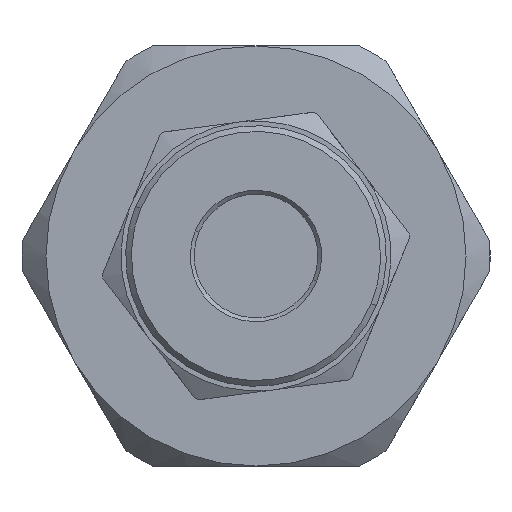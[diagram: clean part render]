
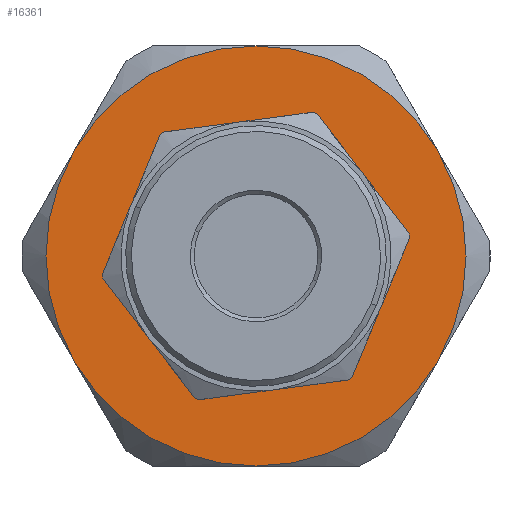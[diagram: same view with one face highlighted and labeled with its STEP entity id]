
A CAD part, left-side view. The second image highlights one B-rep face of the part: STEP entity #16361.
In plain terms, the highlighted planar face has unit normal (-1, 0, 0).
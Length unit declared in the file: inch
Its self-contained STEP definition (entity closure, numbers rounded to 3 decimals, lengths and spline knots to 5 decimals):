
#677 = ORIENTED_EDGE ( 'NONE', *, *, #7560, .T. ) ;
#739 = EDGE_CURVE ( 'NONE', #14292, #10213, #11674, .T. ) ;
#772 = DIRECTION ( 'NONE',  ( 0., 0., 1. ) ) ;
#818 = ORIENTED_EDGE ( 'NONE', *, *, #11634, .T. ) ;
#1408 = DIRECTION ( 'NONE',  ( 0., 0., 1. ) ) ;
#2139 = DIRECTION ( 'NONE',  ( 1., 0., 0. ) ) ;
#2542 = VERTEX_POINT ( 'NONE', #6569 ) ;
#2576 = DIRECTION ( 'NONE',  ( -1., 0., 0. ) ) ;
#2607 = FACE_BOUND ( 'NONE', #16266, .T. ) ;
#2678 = AXIS2_PLACEMENT_3D ( 'NONE', #7974, #5301, #3967 ) ;
#2690 = PLANE ( 'NONE',  #14534 ) ;
#2766 = ORIENTED_EDGE ( 'NONE', *, *, #6705, .T. ) ;
#3119 = DIRECTION ( 'NONE',  ( -1., 0., 0. ) ) ;
#3595 = VERTEX_POINT ( 'NONE', #12402 ) ;
#3967 = DIRECTION ( 'NONE',  ( 0., 0., 1. ) ) ;
#4171 = CARTESIAN_POINT ( 'NONE',  ( 0.407, 0., 0.21525 ) ) ;
#4216 = AXIS2_PLACEMENT_3D ( 'NONE', #6216, #6379, #15093 ) ;
#4450 = AXIS2_PLACEMENT_3D ( 'NONE', #12327, #3119, #12154 ) ;
#4481 = CIRCLE ( 'NONE', #13567, 0.21525 ) ;
#4713 = CARTESIAN_POINT ( 'NONE',  ( 0.407, 0., 0. ) ) ;
#4784 = DIRECTION ( 'NONE',  ( -1., 0., 0. ) ) ;
#5043 = AXIS2_PLACEMENT_3D ( 'NONE', #4713, #2139, #16091 ) ;
#5301 = DIRECTION ( 'NONE',  ( -1., 0., 0. ) ) ;
#5338 = CIRCLE ( 'NONE', #2678, 0.4375 ) ;
#6216 = CARTESIAN_POINT ( 'NONE',  ( 0.407, 0., 0. ) ) ;
#6275 = FACE_OUTER_BOUND ( 'NONE', #6521, .T. ) ;
#6379 = DIRECTION ( 'NONE',  ( -1., 0., 0. ) ) ;
#6483 = EDGE_CURVE ( 'NONE', #2542, #7286, #12249, .T. ) ;
#6489 = CARTESIAN_POINT ( 'NONE',  ( 0.407, 0., 0. ) ) ;
#6521 = EDGE_LOOP ( 'NONE', ( #15514, #13955, #13646, #818, #7999, #677 ) ) ;
#6569 = CARTESIAN_POINT ( 'NONE',  ( 0.407, 0.37889, 0.21875 ) ) ;
#6705 = EDGE_CURVE ( 'NONE', #11238, #13313, #4481, .T. ) ;
#6900 = AXIS2_PLACEMENT_3D ( 'NONE', #9807, #12070, #12406 ) ;
#7144 = EDGE_CURVE ( 'NONE', #13313, #11238, #16509, .T. ) ;
#7286 = VERTEX_POINT ( 'NONE', #11988 ) ;
#7494 = VERTEX_POINT ( 'NONE', #11061 ) ;
#7510 = EDGE_CURVE ( 'NONE', #10213, #3595, #14119, .T. ) ;
#7560 = EDGE_CURVE ( 'NONE', #7286, #14292, #16246, .T. ) ;
#7974 = CARTESIAN_POINT ( 'NONE',  ( 0.407, 0., 0. ) ) ;
#7999 = ORIENTED_EDGE ( 'NONE', *, *, #6483, .T. ) ;
#8303 = CARTESIAN_POINT ( 'NONE',  ( 0.407, 0., 0. ) ) ;
#8362 = CARTESIAN_POINT ( 'NONE',  ( 0.407, 0., 0. ) ) ;
#9050 = AXIS2_PLACEMENT_3D ( 'NONE', #8303, #4784, #10807 ) ;
#9375 = EDGE_CURVE ( 'NONE', #3595, #7494, #12826, .T. ) ;
#9807 = CARTESIAN_POINT ( 'NONE',  ( 0.407, 0., 0. ) ) ;
#10213 = VERTEX_POINT ( 'NONE', #13267 ) ;
#10415 = CARTESIAN_POINT ( 'NONE',  ( 0.407, 0., -0.21525 ) ) ;
#10807 = DIRECTION ( 'NONE',  ( 0., 0., 1. ) ) ;
#10988 = CARTESIAN_POINT ( 'NONE',  ( 0.407, 0., -0.4375 ) ) ;
#11061 = CARTESIAN_POINT ( 'NONE',  ( 0.407, 0., 0.4375 ) ) ;
#11238 = VERTEX_POINT ( 'NONE', #10415 ) ;
#11634 = EDGE_CURVE ( 'NONE', #7494, #2542, #5338, .T. ) ;
#11674 = CIRCLE ( 'NONE', #4450, 0.4375 ) ;
#11734 = ORIENTED_EDGE ( 'NONE', *, *, #7144, .T. ) ;
#11988 = CARTESIAN_POINT ( 'NONE',  ( 0.407, 0.37889, -0.21875 ) ) ;
#12070 = DIRECTION ( 'NONE',  ( -1., 0., 0. ) ) ;
#12154 = DIRECTION ( 'NONE',  ( 0., 0., 1. ) ) ;
#12249 = CIRCLE ( 'NONE', #4216, 0.4375 ) ;
#12327 = CARTESIAN_POINT ( 'NONE',  ( 0.407, 0., 0. ) ) ;
#12402 = CARTESIAN_POINT ( 'NONE',  ( 0.407, -0.37889, 0.21875 ) ) ;
#12406 = DIRECTION ( 'NONE',  ( 0., 0., 1. ) ) ;
#12645 = CARTESIAN_POINT ( 'NONE',  ( 0.407, 0., 0. ) ) ;
#12826 = CIRCLE ( 'NONE', #14435, 0.4375 ) ;
#12893 = DIRECTION ( 'NONE',  ( -1., 0., 0. ) ) ;
#13267 = CARTESIAN_POINT ( 'NONE',  ( 0.407, -0.37889, -0.21875 ) ) ;
#13313 = VERTEX_POINT ( 'NONE', #4171 ) ;
#13470 = DIRECTION ( 'NONE',  ( 1., 0., 0. ) ) ;
#13567 = AXIS2_PLACEMENT_3D ( 'NONE', #8362, #13470, #772 ) ;
#13646 = ORIENTED_EDGE ( 'NONE', *, *, #9375, .T. ) ;
#13955 = ORIENTED_EDGE ( 'NONE', *, *, #7510, .T. ) ;
#14119 = CIRCLE ( 'NONE', #6900, 0.4375 ) ;
#14292 = VERTEX_POINT ( 'NONE', #10988 ) ;
#14435 = AXIS2_PLACEMENT_3D ( 'NONE', #6489, #2576, #1408 ) ;
#14534 = AXIS2_PLACEMENT_3D ( 'NONE', #12645, #12893, #16472 ) ;
#15093 = DIRECTION ( 'NONE',  ( 0., 0., 1. ) ) ;
#15514 = ORIENTED_EDGE ( 'NONE', *, *, #739, .T. ) ;
#16091 = DIRECTION ( 'NONE',  ( 0., 0., 1. ) ) ;
#16246 = CIRCLE ( 'NONE', #9050, 0.4375 ) ;
#16266 = EDGE_LOOP ( 'NONE', ( #11734, #2766 ) ) ;
#16361 = ADVANCED_FACE ( 'NONE', ( #2607, #6275 ), #2690, .T. ) ;
#16472 = DIRECTION ( 'NONE',  ( 0., 0., 1. ) ) ;
#16509 = CIRCLE ( 'NONE', #5043, 0.21525 ) ;
